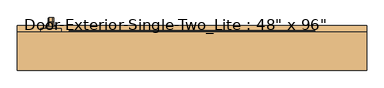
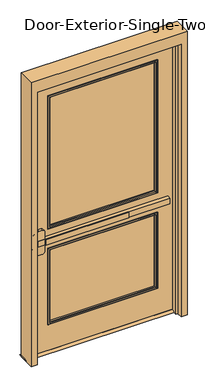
"""IFC4 building model written with IfcOpenShell, lengths in millimetres: door geometry."""

from ifc_helpers import new_model, si_unit, point, frame, frame_2d, origin, place, context, project, spatial, polyline, circle_curve, ellipse_curve, trimmed, segment, composite_curve, outline, extrude, faceted_brep, source, transform, mapped, element, save
from ifc_brep_helpers import plane_surface, cylinder_surface, revolved_surface, advanced_brep


def door_c4539963(model_context):
    return source(origin(), model_context, "Body", "SolidModel", [
        extrude(outline(polyline([(112.7125, 12.7), (157.1625, 12.7), (182.5625, 0.0), (87.3125, 0.0), (112.7125, 12.7)])), frame((-660.4, 0.0, 0.0), z_axis=(1.0, 0.0, 0.0), x_axis=(0.0, 1.0, 0.0)), (0.0, 0.0, 1.0), 1320.8),
        extrude(outline(polyline([(201.0833333, 74.6125), (-501.65, 74.6125), (-501.65, 80.9625), (201.0833333, 80.9625), (201.0833333, 74.6125)])), frame((0.0, 0.0, 990.6), z_axis=(0.0, 0.0, 1.0), x_axis=(1.0, 0.0, 0.0)), (0.0, 0.0, 1.0), 50.8),
        advanced_brep(
        [(-565.15, 80.9625, 1041.4), (-565.15, 80.9625, 990.6), (-501.65, 80.9625, 990.6), (552.45, 80.9625, 990.6), (552.45, 80.9625, 1041.4), (-501.65, 80.9625, 1041.4), (552.45, 112.7125, 1041.4), (552.45, 112.7125, 990.6), (-501.65, 112.7125, 990.6), (-501.65, 112.7125, 927.1), (-520.7, 112.7125, 908.05), (-546.1, 112.7125, 908.05), (-565.15, 112.7125, 927.1), (-565.15, 112.7125, 1104.9), (-546.1, 112.7125, 1123.95), (-520.7, 112.7125, 1123.95), (-501.65, 112.7125, 1104.9), (-501.65, 112.7125, 1041.4), (-501.65, 84.1377467, 1041.4), (-565.15, 84.1377467, 1041.4), (-565.15, 89.1479269, 1104.9), (-565.15, 89.1479269, 927.1), (-565.15, 84.1377467, 990.6), (-501.65, 84.1377467, 990.6), (-501.65, 89.1479269, 927.1), (-501.65, 89.1479269, 1104.9), (-546.1, 90.650981, 1123.95), (-520.7, 90.650981, 1123.95), (-520.7, 90.650981, 908.05), (-546.1, 90.650981, 908.05)],
        [
            (0, 1),
            (1, 2),
            (2, 3),
            (3, 4),
            (4, 5),
            (5, 0),
            (6, 7),
            (7, 8),
            (8, 9),
            (9, 10, circle_curve(frame((-520.7, 112.7125, 927.1), z_axis=(0.0, 1.0, 0.0), x_axis=(1.0, 0.0, 0.0)), 19.05)),
            (10, 11),
            (11, 12, circle_curve(frame((-546.1, 112.7125, 927.1), z_axis=(0.0, 1.0, 0.0), x_axis=(1.0, 0.0, 0.0)), 19.05)),
            (12, 13),
            (13, 14, circle_curve(frame((-546.1, 112.7125, 1104.9), z_axis=(0.0, 1.0, 0.0), x_axis=(1.0, 0.0, 0.0)), 19.05)),
            (14, 15),
            (15, 16, circle_curve(frame((-520.7, 112.7125, 1104.9), z_axis=(0.0, 1.0, 0.0), x_axis=(1.0, 0.0, 0.0)), 19.05)),
            (16, 17),
            (17, 6),
            (4, 6),
            (17, 18),
            (18, 19),
            (19, 0),
            (19, 20),
            (20, 13),
            (12, 21),
            (21, 22),
            (22, 1),
            (7, 3),
            (22, 23),
            (23, 8),
            (23, 24),
            (24, 9),
            (16, 25),
            (25, 18),
            (14, 26),
            (26, 27),
            (27, 15),
            (10, 28),
            (28, 29),
            (29, 11),
            (24, 28, ellipse_curve(frame((-520.7, 89.1479269, 927.1), z_axis=(0.0, 0.9969018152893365, 0.07865602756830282), x_axis=(0.0, -0.07865602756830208, 0.9969018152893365)), 19.1092038, 19.05)),
            (27, 25, ellipse_curve(frame((-520.7, 89.1479269, 1104.9), z_axis=(0.0, 0.9969018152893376, -0.07865602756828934), x_axis=(0.0, -0.078656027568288, -0.9969018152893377)), 19.1092038, 19.05)),
            (20, 26, ellipse_curve(frame((-546.1, 89.1479269, 1104.9), z_axis=(0.0, 0.9969018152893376, -0.07865602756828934), x_axis=(0.0, -0.078656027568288, -0.9969018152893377)), 19.1092038, 19.05)),
            (29, 21, ellipse_curve(frame((-546.1, 89.1479269, 927.1), z_axis=(0.0, 0.9969018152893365, 0.07865602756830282), x_axis=(0.0, -0.07865602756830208, 0.9969018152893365)), 19.1092038, 19.05)),
        ],
        [
            plane_surface(frame((-565.15, 80.9625, 1041.4), z_axis=(0.0, -1.0, 0.0), x_axis=(-1.0, 0.0, 0.0))),
            plane_surface(frame((-565.15, 112.7125, 1041.4), z_axis=(0.0, 1.0, 0.0), x_axis=(1.0, 0.0, 0.0))),
            plane_surface(frame((552.45, 80.9625, 1041.4), z_axis=(0.0, 0.0, 1.0), x_axis=(0.0, 1.0, 0.0))),
            plane_surface(frame((-565.15, 80.9625, 1041.4), z_axis=(-1.0, 0.0, 0.0), x_axis=(0.0, 1.0, 0.0))),
            plane_surface(frame((-565.15, 80.9625, 990.6), z_axis=(0.0, 0.0, -1.0), x_axis=(0.0, 1.0, 0.0))),
            plane_surface(frame((552.45, 80.9625, 990.6), z_axis=(1.0, 0.0, 0.0), x_axis=(0.0, 1.0, 0.0))),
            plane_surface(frame((-501.65, 84.1377467, 927.1), z_axis=(1.0, 0.0, 0.0), x_axis=(0.0, 1.0, 0.0))),
            plane_surface(frame((-520.7, 84.1377467, 1123.95), z_axis=(0.0, 0.0, 1.0), x_axis=(0.0, 1.0, 0.0))),
            plane_surface(frame((-546.1, 84.1377467, 908.05), z_axis=(0.0, 0.0, -1.0), x_axis=(0.0, 1.0, 0.0))),
            cylinder_surface(frame((-520.7, 112.7125, 927.1), z_axis=(0.0, -1.0, 0.0), x_axis=(1.0, 0.0, 0.0)), 19.05),
            cylinder_surface(frame((-520.7, 112.7125, 1104.9), z_axis=(0.0, -1.0, 0.0), x_axis=(1.0, 0.0, 0.0)), 19.05),
            cylinder_surface(frame((-546.1, 112.7125, 1104.9), z_axis=(0.0, -1.0, 0.0), x_axis=(1.0, 0.0, 0.0)), 19.05),
            cylinder_surface(frame((-546.1, 112.7125, 927.1), z_axis=(0.0, -1.0, 0.0), x_axis=(1.0, 0.0, 0.0)), 19.05),
            plane_surface(frame((-501.65, 84.1377467, 1041.4), z_axis=(0.0, -0.9969018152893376, 0.07865602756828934), x_axis=(-1.0, 0.0, 0.0))),
            plane_surface(frame((-501.65, 90.650981, 908.05), z_axis=(0.0, -0.9969018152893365, -0.07865602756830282), x_axis=(-1.0, 0.0, 0.0))),
        ],
        [
            (0, [[1, 2, 3, 4, 5, 6]]),
            (1, [[7, 8, 9, 10, 11, 12, 13, 14, 15, 16, 17, 18]]),
            (2, [[19, -18, 20, 21, 22, -6, -5]]),
            (3, [[-1, -22, 23, 24, -13, 25, 26, 27]]),
            (4, [[28, -3, -2, -27, 29, 30, -8]]),
            (5, [[-4, -28, -7, -19]]),
            (6, [[-9, -30, 31, 32]]),
            (6, [[-17, 33, 34, -20]]),
            (7, [[-15, 35, 36, 37]]),
            (8, [[-11, 38, 39, 40]]),
            (9, [[-10, -32, 41, -38]]),
            (10, [[-16, -37, 42, -33]]),
            (11, [[-14, -24, 43, -35]]),
            (12, [[-12, -40, 44, -25]]),
            (13, [[-21, -34, -42, -36, -43, -23]]),
            (14, [[-26, -44, -39, -41, -31, -29]]),
        ],
    ),
        advanced_brep(
        [(-543.4, 169.8625, 1017.190625), (-543.4, 169.8625, 1014.809375), (-539.828125, 169.8625, 1011.2375), (-526.9715406, 169.8625, 1011.2375), (-523.4, 169.8625, 1014.8090406), (-523.4, 169.8625, 1017.190625), (-526.971875, 169.8625, 1020.7625), (-539.828125, 169.8625, 1020.7625), (-543.4, 169.8625, 887.809375), (-539.828125, 169.8625, 884.2375), (-526.971875, 169.8625, 884.2375), (-523.4, 169.8625, 887.809375), (-523.4, 169.8625, 890.1909594), (-526.9715406, 169.8625, 893.7625), (-539.828125, 169.8625, 893.7625), (-543.4, 169.8625, 890.190625), (-543.4, 195.2625, 1017.190625), (-543.4, 209.153125, 1003.3), (-543.4, 209.153125, 901.7), (-543.4, 195.2625, 887.809375), (-543.4, 195.2625, 890.190625), (-543.4, 206.771875, 901.7), (-543.4, 206.771875, 1003.3), (-543.4, 195.2625, 1014.809375), (-539.828125, 195.2625, 1011.2375), (-526.9715406, 195.2625, 1011.2375), (-523.4, 195.2625, 1014.8090406), (-523.4, 206.7715406, 1003.3), (-523.4, 206.7715406, 901.7), (-523.4, 195.2625, 890.1909594), (-523.4, 195.2625, 887.809375), (-523.4, 209.153125, 901.7), (-523.4, 209.153125, 1003.3), (-523.4, 195.2625, 1017.190625), (-526.971875, 195.2625, 1020.7625), (-539.828125, 195.2625, 1020.7625), (-539.828125, 203.2, 1003.3), (-526.9715406, 203.2, 1003.3), (-526.971875, 212.725, 1003.3), (-539.828125, 212.725, 1003.3), (-539.828125, 203.2, 901.7), (-526.9715406, 203.2, 901.7), (-526.971875, 212.725, 901.7), (-539.828125, 212.725, 901.7), (-539.828125, 195.2625, 893.7625), (-526.9715406, 195.2625, 893.7625), (-526.971875, 195.2625, 884.2375), (-539.828125, 195.2625, 884.2375)],
        [
            (0, 1),
            (1, 2, circle_curve(frame((-539.828125, 169.8625, 1014.809375), z_axis=(0.0, -1.0, 0.0), x_axis=(0.0, 0.0, 1.0)), 3.571875)),
            (2, 3),
            (3, 4, circle_curve(frame((-526.9715406, 169.8625, 1014.8090406), z_axis=(0.0, -1.0, 0.0), x_axis=(0.0, 0.0, 1.0)), 3.5715406)),
            (4, 5),
            (5, 6, circle_curve(frame((-526.971875, 169.8625, 1017.190625), z_axis=(0.0, -1.0, 0.0), x_axis=(0.0, 0.0, 1.0)), 3.571875)),
            (6, 7),
            (7, 0, circle_curve(frame((-539.828125, 169.8625, 1017.190625), z_axis=(0.0, -1.0, 0.0), x_axis=(0.0, 0.0, 1.0)), 3.571875)),
            (8, 9, circle_curve(frame((-539.828125, 169.8625, 887.809375), z_axis=(0.0, -1.0, 0.0), x_axis=(0.0, 0.0, -1.0)), 3.571875)),
            (9, 10),
            (10, 11, circle_curve(frame((-526.971875, 169.8625, 887.809375), z_axis=(0.0, -1.0, 0.0), x_axis=(0.0, 0.0, -1.0)), 3.571875)),
            (11, 12),
            (12, 13, circle_curve(frame((-526.9715406, 169.8625, 890.1909594), z_axis=(0.0, -1.0, 0.0), x_axis=(0.0, 0.0, -1.0)), 3.5715406)),
            (13, 14),
            (14, 15, circle_curve(frame((-539.828125, 169.8625, 890.190625), z_axis=(0.0, -1.0, 0.0), x_axis=(0.0, 0.0, -1.0)), 3.571875)),
            (15, 8),
            (0, 16),
            (16, 17, circle_curve(frame((-543.4, 195.2625, 1003.3), z_axis=(-1.0, 0.0, 0.0), x_axis=(0.0, 0.0, 1.0)), 13.890625)),
            (17, 18),
            (18, 19, circle_curve(frame((-543.4, 195.2625, 901.7), z_axis=(-1.0, 0.0, 0.0), x_axis=(0.0, 1.0, 0.0)), 13.890625)),
            (19, 8),
            (15, 20),
            (20, 21, circle_curve(frame((-543.4, 195.2625, 901.7), z_axis=(1.0, 0.0, 0.0), x_axis=(0.0, 1.0, 0.0)), 11.509375)),
            (21, 22),
            (22, 23, circle_curve(frame((-543.4, 195.2625, 1003.3), z_axis=(1.0, 0.0, 0.0), x_axis=(0.0, 0.0, 1.0)), 11.509375)),
            (23, 1),
            (23, 24, circle_curve(frame((-539.828125, 195.2625, 1014.809375), z_axis=(0.0, -1.0, 0.0), x_axis=(0.0, 0.0, 1.0)), 3.571875)),
            (24, 2),
            (24, 25),
            (25, 3),
            (25, 26, circle_curve(frame((-526.9715406, 195.2625, 1014.8090406), z_axis=(0.0, -1.0, 0.0), x_axis=(0.0, 0.0, 1.0)), 3.5715406)),
            (26, 4),
            (26, 27, circle_curve(frame((-523.4, 195.2625, 1003.3), z_axis=(-1.0, 0.0, 0.0), x_axis=(0.0, 0.0, 1.0)), 11.5090406)),
            (27, 28),
            (28, 29, circle_curve(frame((-523.4, 195.2625, 901.7), z_axis=(-1.0, 0.0, 0.0), x_axis=(0.0, 1.0, 0.0)), 11.5090406)),
            (29, 12),
            (11, 30),
            (30, 31, circle_curve(frame((-523.4, 195.2625, 901.7), z_axis=(1.0, 0.0, 0.0), x_axis=(0.0, 1.0, 0.0)), 13.890625)),
            (31, 32),
            (32, 33, circle_curve(frame((-523.4, 195.2625, 1003.3), z_axis=(1.0, 0.0, 0.0), x_axis=(0.0, 0.0, 1.0)), 13.890625)),
            (33, 5),
            (33, 34, circle_curve(frame((-526.971875, 195.2625, 1017.190625), z_axis=(0.0, -1.0, 0.0), x_axis=(0.0, 0.0, 1.0)), 3.571875)),
            (34, 6),
            (34, 35),
            (35, 7),
            (35, 16, circle_curve(frame((-539.828125, 195.2625, 1017.190625), z_axis=(0.0, -1.0, 0.0), x_axis=(0.0, 0.0, 1.0)), 3.571875)),
            (36, 24, circle_curve(frame((-539.828125, 195.2625, 1003.3), z_axis=(1.0, 0.0, 0.0), x_axis=(0.0, 0.0, 1.0)), 7.9375)),
            (22, 36, circle_curve(frame((-539.828125, 206.771875, 1003.3), z_axis=(0.0, 0.0, 1.0), x_axis=(0.0, 1.0, 0.0)), 3.571875)),
            (37, 25, circle_curve(frame((-526.9715406, 195.2625, 1003.3), z_axis=(1.0, 0.0, 0.0), x_axis=(0.0, 0.0, 1.0)), 7.9375)),
            (36, 37),
            (37, 27, circle_curve(frame((-526.9715406, 206.7715406, 1003.3), z_axis=(0.0, 0.0, 1.0), x_axis=(0.0, 1.0, 0.0)), 3.5715406)),
            (38, 34, circle_curve(frame((-526.971875, 195.2625, 1003.3), z_axis=(1.0, 0.0, 0.0), x_axis=(0.0, 0.0, 1.0)), 17.4625)),
            (32, 38, circle_curve(frame((-526.971875, 209.153125, 1003.3), z_axis=(0.0, 0.0, 1.0), x_axis=(0.0, 1.0, 0.0)), 3.571875)),
            (39, 35, circle_curve(frame((-539.828125, 195.2625, 1003.3), z_axis=(1.0, 0.0, 0.0), x_axis=(0.0, 0.0, 1.0)), 17.4625)),
            (38, 39),
            (39, 17, circle_curve(frame((-539.828125, 209.153125, 1003.3), z_axis=(0.0, 0.0, 1.0), x_axis=(0.0, 1.0, 0.0)), 3.571875)),
            (21, 40, circle_curve(frame((-539.828125, 206.771875, 901.7), z_axis=(0.0, 0.0, 1.0), x_axis=(0.0, 1.0, 0.0)), 3.571875)),
            (40, 36),
            (40, 41),
            (41, 37),
            (41, 28, circle_curve(frame((-526.9715406, 206.7715406, 901.7), z_axis=(0.0, 0.0, 1.0), x_axis=(0.0, 1.0, 0.0)), 3.5715406)),
            (31, 42, circle_curve(frame((-526.971875, 209.153125, 901.7), z_axis=(0.0, 0.0, 1.0), x_axis=(0.0, 1.0, 0.0)), 3.571875)),
            (42, 38),
            (42, 43),
            (43, 39),
            (43, 18, circle_curve(frame((-539.828125, 209.153125, 901.7), z_axis=(0.0, 0.0, 1.0), x_axis=(0.0, 1.0, 0.0)), 3.571875)),
            (44, 40, circle_curve(frame((-539.828125, 195.2625, 901.7), z_axis=(1.0, 0.0, 0.0), x_axis=(0.0, 1.0, 0.0)), 7.9375)),
            (20, 44, circle_curve(frame((-539.828125, 195.2625, 890.190625), z_axis=(0.0, 1.0, 0.0), x_axis=(0.0, 0.0, -1.0)), 3.571875)),
            (45, 41, circle_curve(frame((-526.9715406, 195.2625, 901.7), z_axis=(1.0, 0.0, 0.0), x_axis=(0.0, 1.0, 0.0)), 7.9375)),
            (44, 45),
            (45, 29, circle_curve(frame((-526.9715406, 195.2625, 890.1909594), z_axis=(0.0, 1.0, 0.0), x_axis=(0.0, 0.0, -1.0)), 3.5715406)),
            (46, 42, circle_curve(frame((-526.971875, 195.2625, 901.7), z_axis=(1.0, 0.0, 0.0), x_axis=(0.0, 1.0, 0.0)), 17.4625)),
            (30, 46, circle_curve(frame((-526.971875, 195.2625, 887.809375), z_axis=(0.0, 1.0, 0.0), x_axis=(0.0, 0.0, -1.0)), 3.571875)),
            (47, 43, circle_curve(frame((-539.828125, 195.2625, 901.7), z_axis=(1.0, 0.0, 0.0), x_axis=(0.0, 1.0, 0.0)), 17.4625)),
            (46, 47),
            (47, 19, circle_curve(frame((-539.828125, 195.2625, 887.809375), z_axis=(0.0, 1.0, 0.0), x_axis=(0.0, 0.0, -1.0)), 3.571875)),
            (14, 44),
            (13, 45),
            (10, 46),
            (9, 47),
        ],
        [
            plane_surface(frame((-533.4, 169.8625, 1016.0), z_axis=(0.0, -1.0, 0.0), x_axis=(1.0, 0.0, 0.0))),
            plane_surface(frame((-533.4, 169.8625, 889.0), z_axis=(0.0, -1.0, 0.0), x_axis=(1.0, 0.0, 0.0))),
            plane_surface(frame((-543.4, 169.8625, 1017.190625), z_axis=(-1.0, 0.0, 0.0), x_axis=(0.0, 1.0, 0.0))),
            cylinder_surface(frame((-539.828125, 169.8625, 1014.809375), z_axis=(0.0, -1.0, 0.0), x_axis=(0.0, 0.0, 1.0)), 3.571875),
            plane_surface(frame((-539.828125, 169.8625, 1011.2375), z_axis=(0.0, 0.0, -1.0), x_axis=(0.0, 1.0, 0.0))),
            cylinder_surface(frame((-526.9715406, 169.8625, 1014.8090406), z_axis=(0.0, -1.0, 0.0), x_axis=(0.0, 0.0, 1.0)), 3.5715406),
            plane_surface(frame((-523.4, 169.8625, 1014.8090406), z_axis=(1.0, 0.0, 0.0), x_axis=(0.0, 1.0, 0.0))),
            cylinder_surface(frame((-526.971875, 169.8625, 1017.190625), z_axis=(0.0, -1.0, 0.0), x_axis=(0.0, 0.0, 1.0)), 3.571875),
            plane_surface(frame((-526.971875, 169.8625, 1020.7625), z_axis=(0.0, 0.0, 1.0), x_axis=(0.0, 1.0, 0.0))),
            cylinder_surface(frame((-539.828125, 169.8625, 1017.190625), z_axis=(0.0, -1.0, 0.0), x_axis=(0.0, 0.0, 1.0)), 3.571875),
            revolved_surface(trimmed(ellipse_curve(frame((-539.828125, 195.2625, 1014.809375), z_axis=(0.0, -1.0, 0.0), x_axis=(0.0, 0.0, 1.0)), 3.571875, 3.571875), [point((-543.4, 195.2625, 1014.809375))], [point((-539.828125, 195.2625, 1011.2375))], True, "CARTESIAN"), (-533.4, 195.2625, 1003.3), (-1.0, 0.0, 0.0)),
            revolved_surface(polyline([(-539.828125, 195.2625, 1011.2375), (-526.9715406, 195.2625, 1011.2375)]), (-533.4, 195.2625, 1003.3), (-1.0, 0.0, 0.0)),
            revolved_surface(trimmed(ellipse_curve(frame((-526.9715406, 195.2625, 1014.8090406), z_axis=(0.0, -1.0, 0.0), x_axis=(0.0, 0.0, 1.0)), 3.5715406, 3.5715406), [point((-526.9715406, 195.2625, 1011.2375))], [point((-523.4, 195.2625, 1014.8090406))], True, "CARTESIAN"), (-533.4, 195.2625, 1003.3), (-1.0, 0.0, 0.0)),
            revolved_surface(trimmed(ellipse_curve(frame((-526.971875, 195.2625, 1017.190625), z_axis=(0.0, -1.0, 0.0), x_axis=(0.0, 0.0, 1.0)), 3.571875, 3.571875), [point((-523.4, 195.2625, 1017.190625))], [point((-526.971875, 195.2625, 1020.7625))], True, "CARTESIAN"), (-533.4, 195.2625, 1003.3), (-1.0, 0.0, 0.0)),
            cylinder_surface(frame((-533.4, 195.2625, 1003.3), z_axis=(-1.0, 0.0, 0.0), x_axis=(0.0, 0.0, 1.0)), 17.4625),
            revolved_surface(trimmed(ellipse_curve(frame((-539.828125, 195.2625, 1017.190625), z_axis=(0.0, -1.0, 0.0), x_axis=(0.0, 0.0, 1.0)), 3.571875, 3.571875), [point((-539.828125, 195.2625, 1020.7625))], [point((-543.4, 195.2625, 1017.190625))], True, "CARTESIAN"), (-533.4, 195.2625, 1003.3), (-1.0, 0.0, 0.0)),
            cylinder_surface(frame((-539.828125, 206.771875, 1003.3), z_axis=(0.0, 0.0, 1.0), x_axis=(0.0, 1.0, 0.0)), 3.571875),
            plane_surface(frame((-539.828125, 203.2, 1003.3), z_axis=(0.0, -1.0, 0.0), x_axis=(0.0, 0.0, -1.0))),
            cylinder_surface(frame((-526.9715406, 206.7715406, 1003.3), z_axis=(0.0, 0.0, 1.0), x_axis=(0.0, 1.0, 0.0)), 3.5715406),
            cylinder_surface(frame((-526.971875, 209.153125, 1003.3), z_axis=(0.0, 0.0, 1.0), x_axis=(0.0, 1.0, 0.0)), 3.571875),
            plane_surface(frame((-526.971875, 212.725, 1003.3), z_axis=(0.0, 1.0, 0.0), x_axis=(0.0, 0.0, -1.0))),
            cylinder_surface(frame((-539.828125, 209.153125, 1003.3), z_axis=(0.0, 0.0, 1.0), x_axis=(0.0, 1.0, 0.0)), 3.571875),
            revolved_surface(trimmed(ellipse_curve(frame((-539.828125, 206.771875, 901.7), z_axis=(0.0, 0.0, 1.0), x_axis=(0.0, 1.0, 0.0)), 3.571875, 3.571875), [point((-543.4, 206.771875, 901.7))], [point((-539.828125, 203.2, 901.7))], True, "CARTESIAN"), (-533.4, 195.2625, 901.7), (-1.0, 0.0, 0.0)),
            revolved_surface(polyline([(-539.828125, 203.2, 901.7), (-526.9715406, 203.2, 901.7)]), (-533.4, 195.2625, 901.7), (-1.0, 0.0, 0.0)),
            revolved_surface(trimmed(ellipse_curve(frame((-526.9715406, 206.7715406, 901.7), z_axis=(0.0, 0.0, 1.0), x_axis=(0.0, 1.0, 0.0)), 3.5715406, 3.5715406), [point((-526.9715406, 203.2, 901.7))], [point((-523.4, 206.7715406, 901.7))], True, "CARTESIAN"), (-533.4, 195.2625, 901.7), (-1.0, 0.0, 0.0)),
            revolved_surface(trimmed(ellipse_curve(frame((-526.971875, 209.153125, 901.7), z_axis=(0.0, 0.0, 1.0), x_axis=(0.0, 1.0, 0.0)), 3.571875, 3.571875), [point((-523.4, 209.153125, 901.7))], [point((-526.971875, 212.725, 901.7))], True, "CARTESIAN"), (-533.4, 195.2625, 901.7), (-1.0, 0.0, 0.0)),
            cylinder_surface(frame((-533.4, 195.2625, 901.7), z_axis=(-1.0, 0.0, 0.0), x_axis=(0.0, 1.0, 0.0)), 17.4625),
            revolved_surface(trimmed(ellipse_curve(frame((-539.828125, 209.153125, 901.7), z_axis=(0.0, 0.0, 1.0), x_axis=(0.0, 1.0, 0.0)), 3.571875, 3.571875), [point((-539.828125, 212.725, 901.7))], [point((-543.4, 209.153125, 901.7))], True, "CARTESIAN"), (-533.4, 195.2625, 901.7), (-1.0, 0.0, 0.0)),
            cylinder_surface(frame((-539.828125, 195.2625, 890.190625), z_axis=(0.0, 1.0, 0.0), x_axis=(0.0, 0.0, -1.0)), 3.571875),
            plane_surface(frame((-539.828125, 195.2625, 893.7625), z_axis=(0.0, 0.0, 1.0), x_axis=(0.0, -1.0, 0.0))),
            cylinder_surface(frame((-526.9715406, 195.2625, 890.1909594), z_axis=(0.0, 1.0, 0.0), x_axis=(0.0, 0.0, -1.0)), 3.5715406),
            cylinder_surface(frame((-526.971875, 195.2625, 887.809375), z_axis=(0.0, 1.0, 0.0), x_axis=(0.0, 0.0, -1.0)), 3.571875),
            plane_surface(frame((-526.971875, 195.2625, 884.2375), z_axis=(0.0, 0.0, -1.0), x_axis=(0.0, -1.0, 0.0))),
            cylinder_surface(frame((-539.828125, 195.2625, 887.809375), z_axis=(0.0, 1.0, 0.0), x_axis=(0.0, 0.0, -1.0)), 3.571875),
        ],
        [
            (0, [[1, 2, 3, 4, 5, 6, 7, 8]]),
            (1, [[9, 10, 11, 12, 13, 14, 15, 16]]),
            (2, [[-1, 17, 18, 19, 20, 21, -16, 22, 23, 24, 25, 26]]),
            (3, [[-2, -26, 27, 28]]),
            (4, [[-3, -28, 29, 30]]),
            (5, [[-4, -30, 31, 32]]),
            (6, [[-5, -32, 33, 34, 35, 36, -12, 37, 38, 39, 40, 41]]),
            (7, [[-6, -41, 42, 43]]),
            (8, [[-7, -43, 44, 45]]),
            (9, [[-8, -45, 46, -17]]),
            (10, [[47, -27, -25, 48]]),
            (11, [[49, -29, -47, 50]]),
            (12, [[-33, -31, -49, 51]]),
            (13, [[52, -42, -40, 53]]),
            (14, [[54, -44, -52, 55]]),
            (15, [[-18, -46, -54, 56]]),
            (16, [[-48, -24, 57, 58]]),
            (17, [[-50, -58, 59, 60]]),
            (18, [[-51, -60, 61, -34]]),
            (19, [[-53, -39, 62, 63]]),
            (20, [[-55, -63, 64, 65]]),
            (21, [[-56, -65, 66, -19]]),
            (22, [[67, -57, -23, 68]]),
            (23, [[69, -59, -67, 70]]),
            (24, [[-35, -61, -69, 71]]),
            (25, [[72, -62, -38, 73]]),
            (26, [[74, -64, -72, 75]]),
            (27, [[-20, -66, -74, 76]]),
            (28, [[-68, -22, -15, 77]]),
            (29, [[-70, -77, -14, 78]]),
            (30, [[-71, -78, -13, -36]]),
            (31, [[-73, -37, -11, 79]]),
            (32, [[-75, -79, -10, 80]]),
            (33, [[-76, -80, -9, -21]]),
        ],
    ),
        extrude(outline(composite_curve([segment(trimmed(circle_curve(frame_2d((1117.6, -533.4)), 19.0), [point((1117.6, -552.4))], [point((1117.6, -514.4))], False, "CARTESIAN"), True, "CONTINUOUS"), segment(trimmed(circle_curve(frame_2d((1117.6, -533.4)), 19.0), [point((1117.6, -514.4))], [point((1117.6, -552.4))], False, "CARTESIAN"), True, "CONTINUOUS")], self_intersect=False)), frame((0.0, 169.8625, 0.0), z_axis=(0.0, 1.0, 0.0), x_axis=(0.0, 0.0, 1.0)), (0.0, 0.0, 1.0), 8.73125),
        extrude(outline(composite_curve([segment(trimmed(circle_curve(frame_2d((1113.0338574, -533.4)), 89.3016225), [point((1193.8, -495.3))], [point((1193.8, -571.5))], False, "CARTESIAN"), True, "CONTINUOUS"), segment(polyline([(1193.8, -571.5), (838.2, -571.5)]), True, "CONTINUOUS"), segment(trimmed(circle_curve(frame_2d((918.9661426, -533.4)), 89.3016225), [point((838.2, -571.5))], [point((838.2, -495.3))], False, "CARTESIAN"), True, "CONTINUOUS"), segment(polyline([(838.2, -495.3), (1193.8, -495.3)]), True, "CONTINUOUS")], self_intersect=False)), frame((0.0, 157.1625, 0.0), z_axis=(0.0, 1.0, 0.0), x_axis=(0.0, 0.0, 1.0)), (0.0, 0.0, 1.0), 12.7),
        faceted_brep([(609.6, 107.95, 0.0), (609.6, 157.1625, 0.0), (660.4, 157.1625, 0.0), (660.4, 11.1125, 0.0), (609.6, 11.1125, 0.0), (609.6, 60.325, 0.0), (593.725, 60.325, 0.0), (593.725, 107.95, 0.0), (609.6, 107.95, 2438.4), (609.6, 157.1625, 2438.4), (-609.6, 157.1625, 2438.4), (-609.6, 157.1625, 0.0), (-660.4, 157.1625, 0.0), (-660.4, 157.1625, 2540.0), (660.4, 157.1625, 2540.0), (660.4, 11.1125, 2540.0), (-660.4, 11.1125, 2540.0), (-660.4, 11.1125, 0.0), (-609.6, 11.1125, 0.0), (-609.6, 11.1125, 2438.4), (609.6, 11.1125, 2438.4), (609.6, 60.325, 2438.4), (-609.6, 60.325, 2438.4), (-609.6, 60.325, 0.0), (-593.725, 60.325, 0.0), (-593.725, 60.325, 2422.525), (593.725, 60.325, 2422.525), (593.725, 107.95, 2422.525), (-593.725, 107.95, 2422.525), (-593.725, 107.95, 0.0), (-609.6, 107.95, 0.0), (-609.6, 107.95, 2438.4)], [[[0, 1, 2, 3, 4, 5, 6, 7]], [[1, 0, 8, 9]], [[2, 1, 9, 10, 11, 12, 13, 14]], [[3, 2, 14, 15]], [[4, 3, 15, 16, 17, 18, 19, 20]], [[5, 4, 20, 21]], [[6, 5, 21, 22, 23, 24, 25, 26]], [[7, 6, 26, 27]], [[0, 7, 27, 28, 29, 30, 31, 8]], [[9, 8, 31, 10]], [[20, 19, 22, 21]], [[26, 25, 28, 27]], [[12, 11, 30, 29, 24, 23, 18, 17]], [[11, 10, 31, 30]], [[13, 12, 17, 16]], [[19, 18, 23, 22]], [[25, 24, 29, 28]], [[15, 14, 13, 16]]]),
        extrude(outline(polyline([(2438.4, -609.6), (12.7, -609.6), (12.7, 609.6), (2438.4, 609.6), (2438.4, -609.6)]), holes=[polyline([(2286.0, -457.2), (2286.0, 457.2), (1111.25, 457.2), (1111.25, -457.2), (2286.0, -457.2)]), polyline([(920.75, -457.2), (920.75, 457.2), (254.0, 457.2), (254.0, -457.2), (920.75, -457.2)])]), frame((0.0, 112.7125, 0.0), z_axis=(0.0, 1.0, 0.0), x_axis=(0.0, 0.0, 1.0)), (0.0, 0.0, 1.0), 44.45),
        extrude(outline(polyline([(457.2, 125.4125), (-457.2, 125.4125), (-457.2, 144.4625), (457.2, 144.4625), (457.2, 125.4125)])), frame((0.0, 0.0, 1111.25), z_axis=(0.0, 0.0, 1.0), x_axis=(1.0, 0.0, 0.0)), (0.0, 0.0, 1.0), 1174.75),
        extrude(outline(polyline([(457.2, 125.4125), (-457.2, 125.4125), (-457.2, 144.4625), (457.2, 144.4625), (457.2, 125.4125)])), frame((0.0, 0.0, 254.0), z_axis=(0.0, 0.0, 1.0), x_axis=(1.0, 0.0, 0.0)), (0.0, 0.0, 1.0), 666.75),
        advanced_brep(
        [(457.2, 125.4125, 920.75), (457.2, 112.7125, 920.75), (457.2, 112.7125, 254.0), (457.2, 125.4125, 254.0), (445.2, 111.7125, 908.75), (445.2, 125.4125, 908.75), (445.2, 125.4125, 266.0), (445.2, 111.7125, 266.0), (450.2, 106.7125, 913.75), (450.2, 106.7125, 261.0), (465.2, 108.7125, 928.75), (463.2, 106.7125, 926.75), (463.2, 106.7125, 248.0), (465.2, 108.7125, 246.0), (465.2, 112.7125, 928.75), (465.2, 112.7125, 246.0), (-457.2, 112.7125, 254.0), (-457.2, 125.4125, 254.0), (-445.2, 125.4125, 266.0), (-445.2, 111.7125, 266.0), (-450.2, 106.7125, 261.0), (-463.2, 106.7125, 248.0), (-465.2, 108.7125, 246.0), (-465.2, 112.7125, 246.0), (-457.2, 112.7125, 920.75), (-457.2, 125.4125, 920.75), (-445.2, 125.4125, 908.75), (-445.2, 111.7125, 908.75), (-450.2, 106.7125, 913.75), (-463.2, 106.7125, 926.75), (-465.2, 108.7125, 928.75), (-465.2, 112.7125, 928.75)],
        [
            (0, 1),
            (1, 2),
            (2, 3),
            (3, 0),
            (4, 5),
            (5, 6),
            (6, 7),
            (7, 4),
            (8, 4, ellipse_curve(frame((450.2, 111.7125, 913.75), z_axis=(0.7071067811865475, 0.0, -0.7071067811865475), x_axis=(0.7071067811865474, 0.0, 0.7071067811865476)), 7.0710678, 5.0)),
            (7, 9, ellipse_curve(frame((450.2, 111.7125, 261.0), z_axis=(0.7071067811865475, 0.0, 0.7071067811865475), x_axis=(-0.7071067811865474, 0.0, 0.7071067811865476)), 7.0710678, 5.0)),
            (9, 8),
            (10, 11, ellipse_curve(frame((463.2, 108.7125, 926.75), z_axis=(0.7071067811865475, 0.0, -0.7071067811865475), x_axis=(0.7071067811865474, 0.0, 0.7071067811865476)), 2.8284271, 2.0)),
            (11, 12),
            (12, 13, ellipse_curve(frame((463.2, 108.7125, 248.0), z_axis=(0.7071067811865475, 0.0, 0.7071067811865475), x_axis=(-0.7071067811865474, 0.0, 0.7071067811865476)), 2.8284271, 2.0)),
            (13, 10),
            (14, 10),
            (13, 15),
            (15, 14),
            (2, 16),
            (16, 17),
            (17, 3),
            (6, 18),
            (18, 19),
            (19, 7),
            (19, 20, ellipse_curve(frame((-450.2, 111.7125, 261.0), z_axis=(0.7071067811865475, 0.0, -0.7071067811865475), x_axis=(0.7071067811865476, 0.0, 0.7071067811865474)), 7.0710678, 5.0)),
            (20, 9),
            (12, 21),
            (21, 22, ellipse_curve(frame((-463.2, 108.7125, 248.0), z_axis=(0.7071067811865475, 0.0, -0.7071067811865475), x_axis=(0.7071067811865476, 0.0, 0.7071067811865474)), 2.8284271, 2.0)),
            (22, 13),
            (22, 23),
            (23, 15),
            (16, 24),
            (24, 25),
            (25, 17),
            (18, 26),
            (26, 27),
            (27, 19),
            (27, 28, ellipse_curve(frame((-450.2, 111.7125, 913.75), z_axis=(-0.7071067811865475, 0.0, -0.7071067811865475), x_axis=(0.7071067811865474, 0.0, -0.7071067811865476)), 7.0710678, 5.0)),
            (28, 20),
            (21, 29),
            (29, 30, ellipse_curve(frame((-463.2, 108.7125, 926.75), z_axis=(-0.7071067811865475, 0.0, -0.7071067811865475), x_axis=(0.7071067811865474, 0.0, -0.7071067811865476)), 2.8284271, 2.0)),
            (30, 22),
            (30, 31),
            (31, 23),
            (31, 14),
            (1, 24),
            (0, 25),
            (5, 26),
            (4, 27),
            (8, 28),
            (11, 29),
            (10, 30),
        ],
        [
            plane_surface(frame((457.2, 112.7125, 920.75), z_axis=(1.0, 0.0, 0.0), x_axis=(0.0, 0.0, -1.0))),
            plane_surface(frame((445.2, 125.4125, 908.75), z_axis=(-1.0, 0.0, 0.0), x_axis=(0.0, 0.0, -1.0))),
            cylinder_surface(frame((450.2, 111.7125, 920.75), z_axis=(0.0, 0.0, 1.0), x_axis=(1.0, 0.0, 0.0)), 5.0),
            cylinder_surface(frame((463.2, 108.7125, 920.75), z_axis=(0.0, 0.0, 1.0), x_axis=(1.0, 0.0, 0.0)), 2.0),
            plane_surface(frame((465.2, 108.7125, 928.75), z_axis=(1.0, 0.0, 0.0), x_axis=(0.0, 0.0, -1.0))),
            plane_surface(frame((457.2, 112.7125, 254.0), z_axis=(0.0, 0.0, -1.0), x_axis=(-1.0, 0.0, 0.0))),
            plane_surface(frame((445.2, 125.4125, 266.0), z_axis=(0.0, 0.0, 1.0), x_axis=(-1.0, 0.0, 0.0))),
            cylinder_surface(frame((457.2, 111.7125, 261.0), z_axis=(1.0, 0.0, 0.0), x_axis=(0.0, 0.0, -1.0)), 5.0),
            cylinder_surface(frame((457.2, 108.7125, 248.0), z_axis=(1.0, 0.0, 0.0), x_axis=(0.0, 0.0, -1.0)), 2.0),
            plane_surface(frame((465.2, 108.7125, 246.0), z_axis=(0.0, 0.0, -1.0), x_axis=(-1.0, 0.0, 0.0))),
            plane_surface(frame((-457.2, 112.7125, 254.0), z_axis=(-1.0, 0.0, 0.0), x_axis=(0.0, 0.0, 1.0))),
            plane_surface(frame((-445.2, 125.4125, 266.0), z_axis=(1.0, 0.0, 0.0), x_axis=(0.0, 0.0, 1.0))),
            cylinder_surface(frame((-450.2, 111.7125, 254.0), z_axis=(0.0, 0.0, -1.0), x_axis=(-1.0, 0.0, 0.0)), 5.0),
            cylinder_surface(frame((-463.2, 108.7125, 254.0), z_axis=(0.0, 0.0, -1.0), x_axis=(-1.0, 0.0, 0.0)), 2.0),
            plane_surface(frame((-465.2, 108.7125, 246.0), z_axis=(-1.0, 0.0, 0.0), x_axis=(0.0, 0.0, 1.0))),
            plane_surface(frame((-465.2, 112.7125, 928.75), z_axis=(0.0, 1.0, 0.0), x_axis=(1.0, 0.0, 0.0))),
            plane_surface(frame((-457.2, 112.7125, 920.75), z_axis=(0.0, 0.0, 1.0), x_axis=(1.0, 0.0, 0.0))),
            plane_surface(frame((-457.2, 125.4125, 920.75), z_axis=(0.0, 1.0, 0.0), x_axis=(1.0, 0.0, 0.0))),
            plane_surface(frame((-445.2, 125.4125, 908.75), z_axis=(0.0, 0.0, -1.0), x_axis=(1.0, 0.0, 0.0))),
            cylinder_surface(frame((-457.2, 111.7125, 913.75), z_axis=(-1.0, 0.0, 0.0), x_axis=(0.0, 0.0, 1.0)), 5.0),
            plane_surface(frame((-450.2, 106.7125, 913.75), z_axis=(0.0, -1.0, 0.0), x_axis=(1.0, 0.0, 0.0))),
            cylinder_surface(frame((-457.2, 108.7125, 926.75), z_axis=(-1.0, 0.0, 0.0), x_axis=(0.0, 0.0, 1.0)), 2.0),
            plane_surface(frame((-465.2, 108.7125, 928.75), z_axis=(0.0, 0.0, 1.0), x_axis=(1.0, 0.0, 0.0))),
        ],
        [
            (0, [[1, 2, 3, 4]]),
            (1, [[5, 6, 7, 8]]),
            (2, [[9, -8, 10, 11]]),
            (3, [[12, 13, 14, 15]]),
            (4, [[16, -15, 17, 18]]),
            (5, [[-3, 19, 20, 21]]),
            (6, [[-7, 22, 23, 24]]),
            (7, [[-10, -24, 25, 26]]),
            (8, [[-14, 27, 28, 29]]),
            (9, [[-17, -29, 30, 31]]),
            (10, [[-20, 32, 33, 34]]),
            (11, [[-23, 35, 36, 37]]),
            (12, [[-25, -37, 38, 39]]),
            (13, [[-28, 40, 41, 42]]),
            (14, [[-30, -42, 43, 44]]),
            (15, [[-31, -44, 45, -18], [46, -32, -19, -2]]),
            (16, [[-33, -46, -1, 47]]),
            (17, [[-21, -34, -47, -4], [48, -35, -22, -6]]),
            (18, [[-36, -48, -5, 49]]),
            (19, [[-38, -49, -9, 50]]),
            (20, [[51, -40, -27, -13], [-26, -39, -50, -11]]),
            (21, [[-41, -51, -12, 52]]),
            (22, [[-43, -52, -16, -45]]),
        ],
    ),
        advanced_brep(
        [(-457.2, 144.4625, 920.75), (-457.2, 157.1625, 920.75), (-457.2, 157.1625, 254.0), (-457.2, 144.4625, 254.0), (-445.2, 158.1625, 908.75), (-445.2, 144.4625, 908.75), (-445.2, 144.4625, 266.0), (-445.2, 158.1625, 266.0), (-450.2, 163.1625, 913.75), (-450.2, 163.1625, 261.0), (-465.2, 161.1625, 928.75), (-463.2, 163.1625, 926.75), (-463.2, 163.1625, 248.0), (-465.2, 161.1625, 246.0), (-465.2, 157.1625, 928.75), (-465.2, 157.1625, 246.0), (457.2, 157.1625, 254.0), (457.2, 144.4625, 254.0), (445.2, 144.4625, 266.0), (445.2, 158.1625, 266.0), (450.2, 163.1625, 261.0), (463.2, 163.1625, 248.0), (465.2, 161.1625, 246.0), (465.2, 157.1625, 246.0), (457.2, 157.1625, 920.75), (457.2, 144.4625, 920.75), (445.2, 144.4625, 908.75), (445.2, 158.1625, 908.75), (450.2, 163.1625, 913.75), (463.2, 163.1625, 926.75), (465.2, 161.1625, 928.75), (465.2, 157.1625, 928.75)],
        [
            (0, 1),
            (1, 2),
            (2, 3),
            (3, 0),
            (4, 5),
            (5, 6),
            (6, 7),
            (7, 4),
            (8, 4, ellipse_curve(frame((-450.2, 158.1625, 913.75), z_axis=(-0.7071067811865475, 0.0, -0.7071067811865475), x_axis=(-0.7071067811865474, 0.0, 0.7071067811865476)), 7.0710678, 5.0)),
            (7, 9, ellipse_curve(frame((-450.2, 158.1625, 261.0), z_axis=(-0.7071067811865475, 0.0, 0.7071067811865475), x_axis=(0.7071067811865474, 0.0, 0.7071067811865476)), 7.0710678, 5.0)),
            (9, 8),
            (10, 11, ellipse_curve(frame((-463.2, 161.1625, 926.75), z_axis=(-0.7071067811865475, 0.0, -0.7071067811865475), x_axis=(-0.7071067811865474, 0.0, 0.7071067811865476)), 2.8284271, 2.0)),
            (11, 12),
            (12, 13, ellipse_curve(frame((-463.2, 161.1625, 248.0), z_axis=(-0.7071067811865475, 0.0, 0.7071067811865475), x_axis=(0.7071067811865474, 0.0, 0.7071067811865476)), 2.8284271, 2.0)),
            (13, 10),
            (14, 10),
            (13, 15),
            (15, 14),
            (2, 16),
            (16, 17),
            (17, 3),
            (6, 18),
            (18, 19),
            (19, 7),
            (19, 20, ellipse_curve(frame((450.2, 158.1625, 261.0), z_axis=(-0.7071067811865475, 0.0, -0.7071067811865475), x_axis=(-0.7071067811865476, 0.0, 0.7071067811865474)), 7.0710678, 5.0)),
            (20, 9),
            (12, 21),
            (21, 22, ellipse_curve(frame((463.2, 161.1625, 248.0), z_axis=(-0.7071067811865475, 0.0, -0.7071067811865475), x_axis=(-0.7071067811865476, 0.0, 0.7071067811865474)), 2.8284271, 2.0)),
            (22, 13),
            (22, 23),
            (23, 15),
            (16, 24),
            (24, 25),
            (25, 17),
            (18, 26),
            (26, 27),
            (27, 19),
            (27, 28, ellipse_curve(frame((450.2, 158.1625, 913.75), z_axis=(0.7071067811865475, 0.0, -0.7071067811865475), x_axis=(-0.7071067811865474, 0.0, -0.7071067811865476)), 7.0710678, 5.0)),
            (28, 20),
            (21, 29),
            (29, 30, ellipse_curve(frame((463.2, 161.1625, 926.75), z_axis=(0.7071067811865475, 0.0, -0.7071067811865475), x_axis=(-0.7071067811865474, 0.0, -0.7071067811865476)), 2.8284271, 2.0)),
            (30, 22),
            (30, 31),
            (31, 23),
            (31, 14),
            (1, 24),
            (0, 25),
            (5, 26),
            (4, 27),
            (8, 28),
            (11, 29),
            (10, 30),
        ],
        [
            plane_surface(frame((-457.2, 157.1625, 920.75), z_axis=(-1.0, 0.0, 0.0), x_axis=(0.0, 0.0, -1.0))),
            plane_surface(frame((-445.2, 144.4625, 908.75), z_axis=(1.0, 0.0, 0.0), x_axis=(0.0, 0.0, -1.0))),
            cylinder_surface(frame((-450.2, 158.1625, 920.75), z_axis=(0.0, 0.0, 1.0), x_axis=(-1.0, 0.0, 0.0)), 5.0),
            cylinder_surface(frame((-463.2, 161.1625, 920.75), z_axis=(0.0, 0.0, 1.0), x_axis=(-1.0, 0.0, 0.0)), 2.0),
            plane_surface(frame((-465.2, 161.1625, 928.75), z_axis=(-1.0, 0.0, 0.0), x_axis=(0.0, 0.0, -1.0))),
            plane_surface(frame((-457.2, 157.1625, 254.0), z_axis=(0.0, 0.0, -1.0), x_axis=(1.0, 0.0, 0.0))),
            plane_surface(frame((-445.2, 144.4625, 266.0), z_axis=(0.0, 0.0, 1.0), x_axis=(1.0, 0.0, 0.0))),
            cylinder_surface(frame((-457.2, 158.1625, 261.0), z_axis=(-1.0, 0.0, 0.0), x_axis=(0.0, 0.0, -1.0)), 5.0),
            cylinder_surface(frame((-457.2, 161.1625, 248.0), z_axis=(-1.0, 0.0, 0.0), x_axis=(0.0, 0.0, -1.0)), 2.0),
            plane_surface(frame((-465.2, 161.1625, 246.0), z_axis=(0.0, 0.0, -1.0), x_axis=(1.0, 0.0, 0.0))),
            plane_surface(frame((457.2, 157.1625, 254.0), z_axis=(1.0, 0.0, 0.0), x_axis=(0.0, 0.0, 1.0))),
            plane_surface(frame((445.2, 144.4625, 266.0), z_axis=(-1.0, 0.0, 0.0), x_axis=(0.0, 0.0, 1.0))),
            cylinder_surface(frame((450.2, 158.1625, 254.0), z_axis=(0.0, 0.0, -1.0), x_axis=(1.0, 0.0, 0.0)), 5.0),
            cylinder_surface(frame((463.2, 161.1625, 254.0), z_axis=(0.0, 0.0, -1.0), x_axis=(1.0, 0.0, 0.0)), 2.0),
            plane_surface(frame((465.2, 161.1625, 246.0), z_axis=(1.0, 0.0, 0.0), x_axis=(0.0, 0.0, 1.0))),
            plane_surface(frame((465.2, 157.1625, 928.75), z_axis=(0.0, -1.0, 0.0), x_axis=(-1.0, 0.0, 0.0))),
            plane_surface(frame((457.2, 157.1625, 920.75), z_axis=(0.0, 0.0, 1.0), x_axis=(-1.0, 0.0, 0.0))),
            plane_surface(frame((457.2, 144.4625, 920.75), z_axis=(0.0, -1.0, 0.0), x_axis=(-1.0, 0.0, 0.0))),
            plane_surface(frame((445.2, 144.4625, 908.75), z_axis=(0.0, 0.0, -1.0), x_axis=(-1.0, 0.0, 0.0))),
            cylinder_surface(frame((457.2, 158.1625, 913.75), z_axis=(1.0, 0.0, 0.0), x_axis=(0.0, 0.0, 1.0)), 5.0),
            plane_surface(frame((450.2, 163.1625, 913.75), z_axis=(0.0, 1.0, 0.0), x_axis=(-1.0, 0.0, 0.0))),
            cylinder_surface(frame((457.2, 161.1625, 926.75), z_axis=(1.0, 0.0, 0.0), x_axis=(0.0, 0.0, 1.0)), 2.0),
            plane_surface(frame((465.2, 161.1625, 928.75), z_axis=(0.0, 0.0, 1.0), x_axis=(-1.0, 0.0, 0.0))),
        ],
        [
            (0, [[1, 2, 3, 4]]),
            (1, [[5, 6, 7, 8]]),
            (2, [[9, -8, 10, 11]]),
            (3, [[12, 13, 14, 15]]),
            (4, [[16, -15, 17, 18]]),
            (5, [[-3, 19, 20, 21]]),
            (6, [[-7, 22, 23, 24]]),
            (7, [[-10, -24, 25, 26]]),
            (8, [[-14, 27, 28, 29]]),
            (9, [[-17, -29, 30, 31]]),
            (10, [[-20, 32, 33, 34]]),
            (11, [[-23, 35, 36, 37]]),
            (12, [[-25, -37, 38, 39]]),
            (13, [[-28, 40, 41, 42]]),
            (14, [[-30, -42, 43, 44]]),
            (15, [[-31, -44, 45, -18], [46, -32, -19, -2]]),
            (16, [[-33, -46, -1, 47]]),
            (17, [[-21, -34, -47, -4], [48, -35, -22, -6]]),
            (18, [[-36, -48, -5, 49]]),
            (19, [[-38, -49, -9, 50]]),
            (20, [[51, -40, -27, -13], [-26, -39, -50, -11]]),
            (21, [[-41, -51, -12, 52]]),
            (22, [[-43, -52, -16, -45]]),
        ],
    ),
        advanced_brep(
        [(-457.2, 125.4125, 1111.25), (-457.2, 112.7125, 1111.25), (-457.2, 112.7125, 2286.0), (-457.2, 125.4125, 2286.0), (-445.2, 111.7125, 1123.25), (-445.2, 125.4125, 1123.25), (-445.2, 125.4125, 2274.0), (-445.2, 111.7125, 2274.0), (-450.2, 106.7125, 1118.25), (-450.2, 106.7125, 2279.0), (-465.2, 108.7125, 1103.25), (-463.2, 106.7125, 1105.25), (-463.2, 106.7125, 2292.0), (-465.2, 108.7125, 2294.0), (-465.2, 112.7125, 1103.25), (-465.2, 112.7125, 2294.0), (457.2, 112.7125, 2286.0), (457.2, 125.4125, 2286.0), (445.2, 125.4125, 2274.0), (445.2, 111.7125, 2274.0), (450.2, 106.7125, 2279.0), (463.2, 106.7125, 2292.0), (465.2, 108.7125, 2294.0), (465.2, 112.7125, 2294.0), (457.2, 112.7125, 1111.25), (457.2, 125.4125, 1111.25), (445.2, 125.4125, 1123.25), (445.2, 111.7125, 1123.25), (450.2, 106.7125, 1118.25), (463.2, 106.7125, 1105.25), (465.2, 108.7125, 1103.25), (465.2, 112.7125, 1103.25)],
        [
            (0, 1),
            (1, 2),
            (2, 3),
            (3, 0),
            (4, 5),
            (5, 6),
            (6, 7),
            (7, 4),
            (8, 4, ellipse_curve(frame((-450.2, 111.7125, 1118.25), z_axis=(-0.7071067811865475, 0.0, 0.7071067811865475), x_axis=(-0.7071067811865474, 0.0, -0.7071067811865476)), 7.0710678, 5.0)),
            (7, 9, ellipse_curve(frame((-450.2, 111.7125, 2279.0), z_axis=(-0.7071067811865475, 0.0, -0.7071067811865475), x_axis=(0.7071067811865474, 0.0, -0.7071067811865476)), 7.0710678, 5.0)),
            (9, 8),
            (10, 11, ellipse_curve(frame((-463.2, 108.7125, 1105.25), z_axis=(-0.7071067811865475, 0.0, 0.7071067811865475), x_axis=(-0.7071067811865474, 0.0, -0.7071067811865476)), 2.8284271, 2.0)),
            (11, 12),
            (12, 13, ellipse_curve(frame((-463.2, 108.7125, 2292.0), z_axis=(-0.7071067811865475, 0.0, -0.7071067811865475), x_axis=(0.7071067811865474, 0.0, -0.7071067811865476)), 2.8284271, 2.0)),
            (13, 10),
            (14, 10),
            (13, 15),
            (15, 14),
            (2, 16),
            (16, 17),
            (17, 3),
            (6, 18),
            (18, 19),
            (19, 7),
            (19, 20, ellipse_curve(frame((450.2, 111.7125, 2279.0), z_axis=(-0.7071067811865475, 0.0, 0.7071067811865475), x_axis=(-0.7071067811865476, 0.0, -0.7071067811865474)), 7.0710678, 5.0)),
            (20, 9),
            (12, 21),
            (21, 22, ellipse_curve(frame((463.2, 108.7125, 2292.0), z_axis=(-0.7071067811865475, 0.0, 0.7071067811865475), x_axis=(-0.7071067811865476, 0.0, -0.7071067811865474)), 2.8284271, 2.0)),
            (22, 13),
            (22, 23),
            (23, 15),
            (16, 24),
            (24, 25),
            (25, 17),
            (18, 26),
            (26, 27),
            (27, 19),
            (27, 28, ellipse_curve(frame((450.2, 111.7125, 1118.25), z_axis=(0.7071067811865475, 0.0, 0.7071067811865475), x_axis=(-0.7071067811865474, 0.0, 0.7071067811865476)), 7.0710678, 5.0)),
            (28, 20),
            (21, 29),
            (29, 30, ellipse_curve(frame((463.2, 108.7125, 1105.25), z_axis=(0.7071067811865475, 0.0, 0.7071067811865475), x_axis=(-0.7071067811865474, 0.0, 0.7071067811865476)), 2.8284271, 2.0)),
            (30, 22),
            (30, 31),
            (31, 23),
            (31, 14),
            (1, 24),
            (0, 25),
            (5, 26),
            (4, 27),
            (8, 28),
            (11, 29),
            (10, 30),
        ],
        [
            plane_surface(frame((-457.2, 112.7125, 1111.25), z_axis=(-1.0, 0.0, 0.0), x_axis=(0.0, 0.0, 1.0))),
            plane_surface(frame((-445.2, 125.4125, 1123.25), z_axis=(1.0, 0.0, 0.0), x_axis=(0.0, 0.0, 1.0))),
            cylinder_surface(frame((-450.2, 111.7125, 1111.25), z_axis=(0.0, 0.0, -1.0), x_axis=(-1.0, 0.0, 0.0)), 5.0),
            cylinder_surface(frame((-463.2, 108.7125, 1111.25), z_axis=(0.0, 0.0, -1.0), x_axis=(-1.0, 0.0, 0.0)), 2.0),
            plane_surface(frame((-465.2, 108.7125, 1103.25), z_axis=(-1.0, 0.0, 0.0), x_axis=(0.0, 0.0, 1.0))),
            plane_surface(frame((-457.2, 112.7125, 2286.0), z_axis=(0.0, 0.0, 1.0), x_axis=(1.0, 0.0, 0.0))),
            plane_surface(frame((-445.2, 125.4125, 2274.0), z_axis=(0.0, 0.0, -1.0), x_axis=(1.0, 0.0, 0.0))),
            cylinder_surface(frame((-457.2, 111.7125, 2279.0), z_axis=(-1.0, 0.0, 0.0), x_axis=(0.0, 0.0, 1.0)), 5.0),
            cylinder_surface(frame((-457.2, 108.7125, 2292.0), z_axis=(-1.0, 0.0, 0.0), x_axis=(0.0, 0.0, 1.0)), 2.0),
            plane_surface(frame((-465.2, 108.7125, 2294.0), z_axis=(0.0, 0.0, 1.0), x_axis=(1.0, 0.0, 0.0))),
            plane_surface(frame((457.2, 112.7125, 2286.0), z_axis=(1.0, 0.0, 0.0), x_axis=(0.0, 0.0, -1.0))),
            plane_surface(frame((445.2, 125.4125, 2274.0), z_axis=(-1.0, 0.0, 0.0), x_axis=(0.0, 0.0, -1.0))),
            cylinder_surface(frame((450.2, 111.7125, 2286.0), z_axis=(0.0, 0.0, 1.0), x_axis=(1.0, 0.0, 0.0)), 5.0),
            cylinder_surface(frame((463.2, 108.7125, 2286.0), z_axis=(0.0, 0.0, 1.0), x_axis=(1.0, 0.0, 0.0)), 2.0),
            plane_surface(frame((465.2, 108.7125, 2294.0), z_axis=(1.0, 0.0, 0.0), x_axis=(0.0, 0.0, -1.0))),
            plane_surface(frame((465.2, 112.7125, 1103.25), z_axis=(0.0, 1.0, 0.0), x_axis=(-1.0, 0.0, 0.0))),
            plane_surface(frame((457.2, 112.7125, 1111.25), z_axis=(0.0, 0.0, -1.0), x_axis=(-1.0, 0.0, 0.0))),
            plane_surface(frame((457.2, 125.4125, 1111.25), z_axis=(0.0, 1.0, 0.0), x_axis=(-1.0, 0.0, 0.0))),
            plane_surface(frame((445.2, 125.4125, 1123.25), z_axis=(0.0, 0.0, 1.0), x_axis=(-1.0, 0.0, 0.0))),
            cylinder_surface(frame((457.2, 111.7125, 1118.25), z_axis=(1.0, 0.0, 0.0), x_axis=(0.0, 0.0, -1.0)), 5.0),
            plane_surface(frame((450.2, 106.7125, 1118.25), z_axis=(0.0, -1.0, 0.0), x_axis=(-1.0, 0.0, 0.0))),
            cylinder_surface(frame((457.2, 108.7125, 1105.25), z_axis=(1.0, 0.0, 0.0), x_axis=(0.0, 0.0, -1.0)), 2.0),
            plane_surface(frame((465.2, 108.7125, 1103.25), z_axis=(0.0, 0.0, -1.0), x_axis=(-1.0, 0.0, 0.0))),
        ],
        [
            (0, [[1, 2, 3, 4]]),
            (1, [[5, 6, 7, 8]]),
            (2, [[9, -8, 10, 11]]),
            (3, [[12, 13, 14, 15]]),
            (4, [[16, -15, 17, 18]]),
            (5, [[-3, 19, 20, 21]]),
            (6, [[-7, 22, 23, 24]]),
            (7, [[-10, -24, 25, 26]]),
            (8, [[-14, 27, 28, 29]]),
            (9, [[-17, -29, 30, 31]]),
            (10, [[-20, 32, 33, 34]]),
            (11, [[-23, 35, 36, 37]]),
            (12, [[-25, -37, 38, 39]]),
            (13, [[-28, 40, 41, 42]]),
            (14, [[-30, -42, 43, 44]]),
            (15, [[-31, -44, 45, -18], [46, -32, -19, -2]]),
            (16, [[-33, -46, -1, 47]]),
            (17, [[-21, -34, -47, -4], [48, -35, -22, -6]]),
            (18, [[-36, -48, -5, 49]]),
            (19, [[-38, -49, -9, 50]]),
            (20, [[51, -40, -27, -13], [-26, -39, -50, -11]]),
            (21, [[-41, -51, -12, 52]]),
            (22, [[-43, -52, -16, -45]]),
        ],
    ),
        advanced_brep(
        [(-457.2, 144.4625, 2286.0), (-457.2, 157.1625, 2286.0), (-457.2, 157.1625, 1111.25), (-457.2, 144.4625, 1111.25), (-445.2, 158.1625, 2274.0), (-445.2, 144.4625, 2274.0), (-445.2, 144.4625, 1123.25), (-445.2, 158.1625, 1123.25), (-450.2, 163.1625, 2279.0), (-450.2, 163.1625, 1118.25), (-465.2, 161.1625, 2294.0), (-463.2, 163.1625, 2292.0), (-463.2, 163.1625, 1105.25), (-465.2, 161.1625, 1103.25), (-465.2, 157.1625, 2294.0), (-465.2, 157.1625, 1103.25), (457.2, 157.1625, 1111.25), (457.2, 144.4625, 1111.25), (445.2, 144.4625, 1123.25), (445.2, 158.1625, 1123.25), (450.2, 163.1625, 1118.25), (463.2, 163.1625, 1105.25), (465.2, 161.1625, 1103.25), (465.2, 157.1625, 1103.25), (457.2, 157.1625, 2286.0), (457.2, 144.4625, 2286.0), (445.2, 144.4625, 2274.0), (445.2, 158.1625, 2274.0), (450.2, 163.1625, 2279.0), (463.2, 163.1625, 2292.0), (465.2, 161.1625, 2294.0), (465.2, 157.1625, 2294.0)],
        [
            (0, 1),
            (1, 2),
            (2, 3),
            (3, 0),
            (4, 5),
            (5, 6),
            (6, 7),
            (7, 4),
            (8, 4, ellipse_curve(frame((-450.2, 158.1625, 2279.0), z_axis=(-0.7071067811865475, 0.0, -0.7071067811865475), x_axis=(-0.7071067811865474, 0.0, 0.7071067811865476)), 7.0710678, 5.0)),
            (7, 9, ellipse_curve(frame((-450.2, 158.1625, 1118.25), z_axis=(-0.7071067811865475, 0.0, 0.7071067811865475), x_axis=(0.7071067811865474, 0.0, 0.7071067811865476)), 7.0710678, 5.0)),
            (9, 8),
            (10, 11, ellipse_curve(frame((-463.2, 161.1625, 2292.0), z_axis=(-0.7071067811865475, 0.0, -0.7071067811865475), x_axis=(-0.7071067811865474, 0.0, 0.7071067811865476)), 2.8284271, 2.0)),
            (11, 12),
            (12, 13, ellipse_curve(frame((-463.2, 161.1625, 1105.25), z_axis=(-0.7071067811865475, 0.0, 0.7071067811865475), x_axis=(0.7071067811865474, 0.0, 0.7071067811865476)), 2.8284271, 2.0)),
            (13, 10),
            (14, 10),
            (13, 15),
            (15, 14),
            (2, 16),
            (16, 17),
            (17, 3),
            (6, 18),
            (18, 19),
            (19, 7),
            (19, 20, ellipse_curve(frame((450.2, 158.1625, 1118.25), z_axis=(-0.7071067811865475, 0.0, -0.7071067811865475), x_axis=(-0.7071067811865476, 0.0, 0.7071067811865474)), 7.0710678, 5.0)),
            (20, 9),
            (12, 21),
            (21, 22, ellipse_curve(frame((463.2, 161.1625, 1105.25), z_axis=(-0.7071067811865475, 0.0, -0.7071067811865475), x_axis=(-0.7071067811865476, 0.0, 0.7071067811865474)), 2.8284271, 2.0)),
            (22, 13),
            (22, 23),
            (23, 15),
            (16, 24),
            (24, 25),
            (25, 17),
            (18, 26),
            (26, 27),
            (27, 19),
            (27, 28, ellipse_curve(frame((450.2, 158.1625, 2279.0), z_axis=(0.7071067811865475, 0.0, -0.7071067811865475), x_axis=(-0.7071067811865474, 0.0, -0.7071067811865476)), 7.0710678, 5.0)),
            (28, 20),
            (21, 29),
            (29, 30, ellipse_curve(frame((463.2, 161.1625, 2292.0), z_axis=(0.7071067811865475, 0.0, -0.7071067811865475), x_axis=(-0.7071067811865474, 0.0, -0.7071067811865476)), 2.8284271, 2.0)),
            (30, 22),
            (30, 31),
            (31, 23),
            (31, 14),
            (1, 24),
            (0, 25),
            (5, 26),
            (4, 27),
            (8, 28),
            (11, 29),
            (10, 30),
        ],
        [
            plane_surface(frame((-457.2, 157.1625, 2286.0), z_axis=(-1.0, 0.0, 0.0), x_axis=(0.0, 0.0, -1.0))),
            plane_surface(frame((-445.2, 144.4625, 2274.0), z_axis=(1.0, 0.0, 0.0), x_axis=(0.0, 0.0, -1.0))),
            cylinder_surface(frame((-450.2, 158.1625, 2286.0), z_axis=(0.0, 0.0, 1.0), x_axis=(-1.0, 0.0, 0.0)), 5.0),
            cylinder_surface(frame((-463.2, 161.1625, 2286.0), z_axis=(0.0, 0.0, 1.0), x_axis=(-1.0, 0.0, 0.0)), 2.0),
            plane_surface(frame((-465.2, 161.1625, 2294.0), z_axis=(-1.0, 0.0, 0.0), x_axis=(0.0, 0.0, -1.0))),
            plane_surface(frame((-457.2, 157.1625, 1111.25), z_axis=(0.0, 0.0, -1.0), x_axis=(1.0, 0.0, 0.0))),
            plane_surface(frame((-445.2, 144.4625, 1123.25), z_axis=(0.0, 0.0, 1.0), x_axis=(1.0, 0.0, 0.0))),
            cylinder_surface(frame((-457.2, 158.1625, 1118.25), z_axis=(-1.0, 0.0, 0.0), x_axis=(0.0, 0.0, -1.0)), 5.0),
            cylinder_surface(frame((-457.2, 161.1625, 1105.25), z_axis=(-1.0, 0.0, 0.0), x_axis=(0.0, 0.0, -1.0)), 2.0),
            plane_surface(frame((-465.2, 161.1625, 1103.25), z_axis=(0.0, 0.0, -1.0), x_axis=(1.0, 0.0, 0.0))),
            plane_surface(frame((457.2, 157.1625, 1111.25), z_axis=(1.0, 0.0, 0.0), x_axis=(0.0, 0.0, 1.0))),
            plane_surface(frame((445.2, 144.4625, 1123.25), z_axis=(-1.0, 0.0, 0.0), x_axis=(0.0, 0.0, 1.0))),
            cylinder_surface(frame((450.2, 158.1625, 1111.25), z_axis=(0.0, 0.0, -1.0), x_axis=(1.0, 0.0, 0.0)), 5.0),
            cylinder_surface(frame((463.2, 161.1625, 1111.25), z_axis=(0.0, 0.0, -1.0), x_axis=(1.0, 0.0, 0.0)), 2.0),
            plane_surface(frame((465.2, 161.1625, 1103.25), z_axis=(1.0, 0.0, 0.0), x_axis=(0.0, 0.0, 1.0))),
            plane_surface(frame((465.2, 157.1625, 2294.0), z_axis=(0.0, -1.0, 0.0), x_axis=(-1.0, 0.0, 0.0))),
            plane_surface(frame((457.2, 157.1625, 2286.0), z_axis=(0.0, 0.0, 1.0), x_axis=(-1.0, 0.0, 0.0))),
            plane_surface(frame((457.2, 144.4625, 2286.0), z_axis=(0.0, -1.0, 0.0), x_axis=(-1.0, 0.0, 0.0))),
            plane_surface(frame((445.2, 144.4625, 2274.0), z_axis=(0.0, 0.0, -1.0), x_axis=(-1.0, 0.0, 0.0))),
            cylinder_surface(frame((457.2, 158.1625, 2279.0), z_axis=(1.0, 0.0, 0.0), x_axis=(0.0, 0.0, 1.0)), 5.0),
            plane_surface(frame((450.2, 163.1625, 2279.0), z_axis=(0.0, 1.0, 0.0), x_axis=(-1.0, 0.0, 0.0))),
            cylinder_surface(frame((457.2, 161.1625, 2292.0), z_axis=(1.0, 0.0, 0.0), x_axis=(0.0, 0.0, 1.0)), 2.0),
            plane_surface(frame((465.2, 161.1625, 2294.0), z_axis=(0.0, 0.0, 1.0), x_axis=(-1.0, 0.0, 0.0))),
        ],
        [
            (0, [[1, 2, 3, 4]]),
            (1, [[5, 6, 7, 8]]),
            (2, [[9, -8, 10, 11]]),
            (3, [[12, 13, 14, 15]]),
            (4, [[16, -15, 17, 18]]),
            (5, [[-3, 19, 20, 21]]),
            (6, [[-7, 22, 23, 24]]),
            (7, [[-10, -24, 25, 26]]),
            (8, [[-14, 27, 28, 29]]),
            (9, [[-17, -29, 30, 31]]),
            (10, [[-20, 32, 33, 34]]),
            (11, [[-23, 35, 36, 37]]),
            (12, [[-25, -37, 38, 39]]),
            (13, [[-28, 40, 41, 42]]),
            (14, [[-30, -42, 43, 44]]),
            (15, [[-31, -44, 45, -18], [46, -32, -19, -2]]),
            (16, [[-33, -46, -1, 47]]),
            (17, [[-21, -34, -47, -4], [48, -35, -22, -6]]),
            (18, [[-36, -48, -5, 49]]),
            (19, [[-38, -49, -9, 50]]),
            (20, [[51, -40, -27, -13], [-26, -39, -50, -11]]),
            (21, [[-41, -51, -12, 52]]),
            (22, [[-43, -52, -16, -45]]),
        ],
    ),
    ])


if __name__ == "__main__":
    model = new_model("IFC4")
    model_context = context("Model", 3, world=origin())
    ifc_project = project(units=[si_unit("LENGTHUNIT", "METRE", prefix="MILLI")], contexts=[model_context])
    site = spatial("IfcSite", under=ifc_project)
    building = spatial("IfcBuilding", under=site)
    placement = place(None, origin())
    door_shape = door_c4539963(model_context)
    element("IfcDoor", 1, ObjectType="Door-Exterior-Single-Two_Lite : 48\" x 96\"", at=placement, inside=building, context=model_context, shape_type="MappedRepresentation", body=[
        mapped(door_shape, transform((0.0, 0.0, 0.0), x_axis=(1.0, 0.0, 0.0), y_axis=(0.0, 1.0, 0.0), z_axis=(0.0, 0.0, 1.0))),
    ])
    save(model, "model.ifc")
